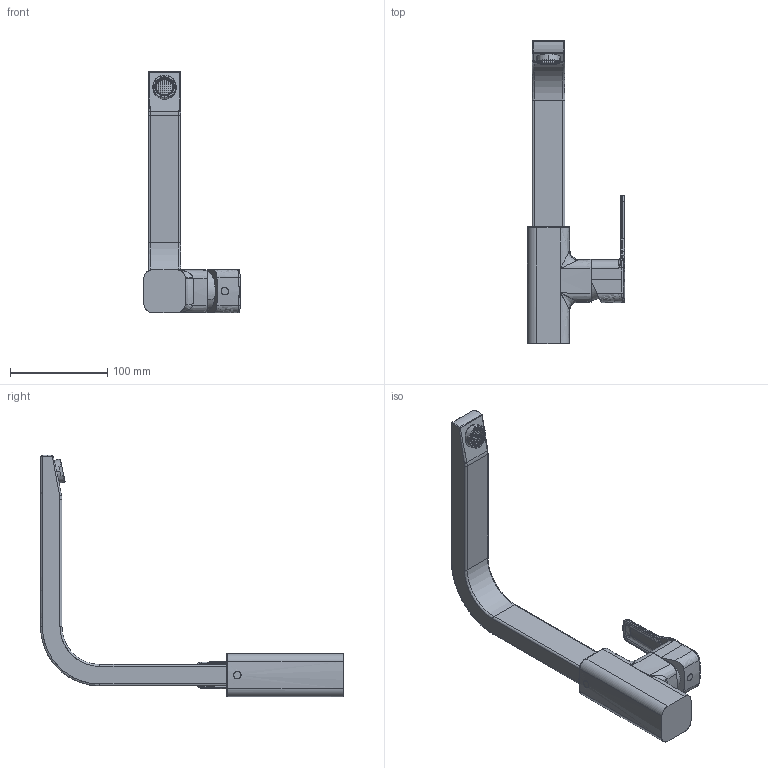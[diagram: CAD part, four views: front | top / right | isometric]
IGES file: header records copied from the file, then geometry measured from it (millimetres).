
Start section: SolidWorks IGES file using NURBS representation for surfaces
Global section: file name: \\IBMGRAU\Projectos\01-TORNEIRAS\ADVANCE\5273031 - mist. cozinha cold open\biblioteca 3D\5273031_igs.IGS; native system: SolidWorks 2018; preprocessor: SolidWorks 2018; author: Julio; date: 180418.140623; units: millimetre
Bounding box: 100.4 x 311 x 248.31 mm (x, y, z)
Surface area: 79301 mm2 (no closed solid volume)
Topology: 0 solids, 0 shells, 702 faces, 10864 edges, 10853 vertices
Faces by surface type: bspline 702
